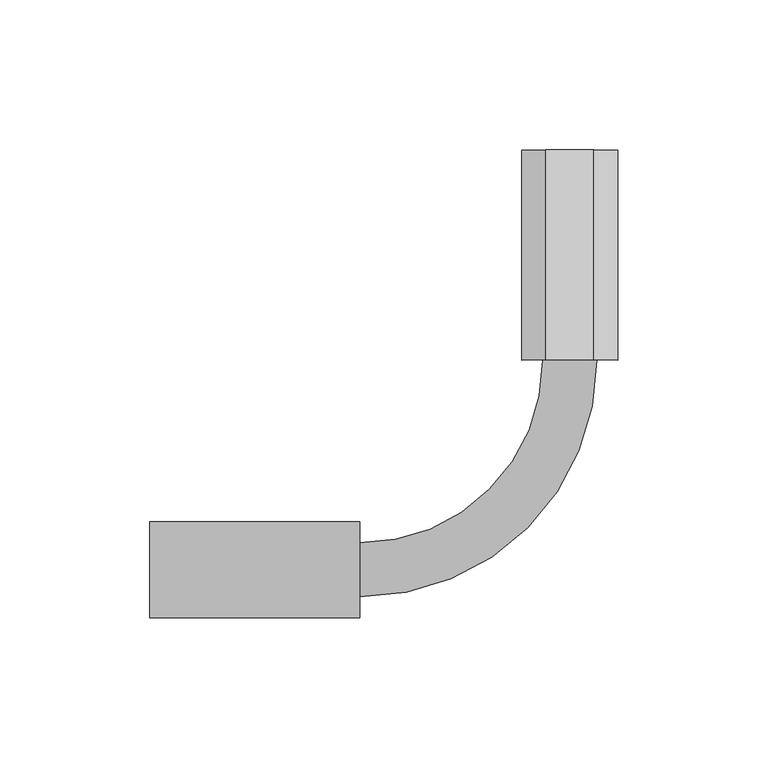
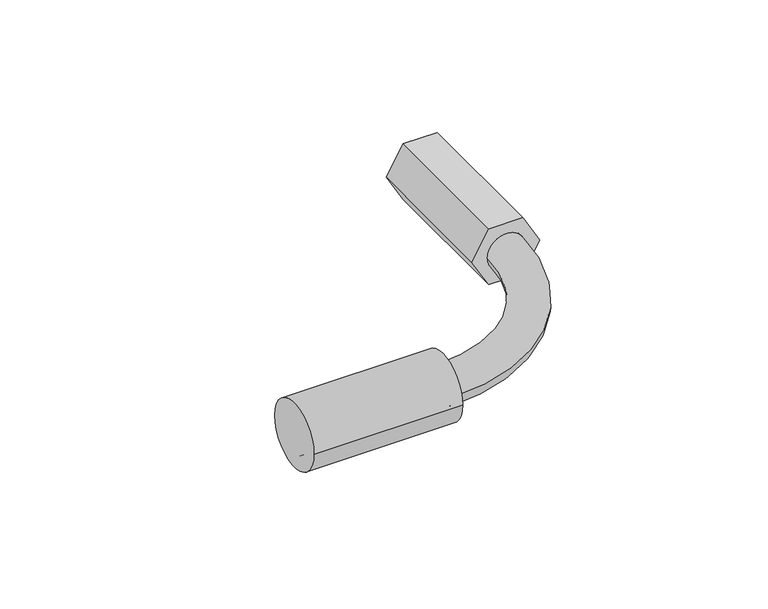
"""IFC4 building model written with IfcOpenShell, lengths in millimetres: cable carrier fitting geometry, Муфта_гибкая_труба-труба_IP44 : Муфта гибкая труба-труба D16мм."""

from ifc_helpers import new_model, si_unit, point, frame, origin, origin_2d, place, context, project, spatial, polyline, circle_curve, ellipse_curve, trimmed, segment, composite_curve, outline, extrude, source, transform, mapped, element, save
from ifc_brep_helpers import plane_surface, cylinder_surface, revolved_surface, advanced_brep


def cable_carrier_fitting_d21bb2d3(model_context):
    return source(origin(), model_context, "Body", "SolidModel", [
        extrude(outline(composite_curve([segment(trimmed(circle_curve(origin_2d(), 16.0), [point((-16.0, 0.0))], [point((16.0, 0.0))], False, "CARTESIAN"), True, "CONTINUOUS"), segment(trimmed(circle_curve(origin_2d(), 16.0), [point((16.0, 0.0))], [point((-16.0, 0.0))], False, "CARTESIAN"), True, "CONTINUOUS")], self_intersect=False)), frame((-140.0, 0.0, 0.0), z_axis=(1.0, 0.0, 0.0), x_axis=(0.0, 1.0, 0.0)), (0.0, 0.0, 1.0), 70.0),
        extrude(outline(polyline([(-13.8564065, 8.0), (0.0, 16.0), (13.8564065, 8.0), (13.8564065, -8.0), (0.0, -16.0), (-13.8564065, -8.0), (-13.8564065, 8.0)])), frame((0.0, 70.0, 0.0), z_axis=(0.0, 1.0, 0.0), x_axis=(0.0, 0.0, 1.0)), (0.0, 0.0, 1.0), 70.0),
        advanced_brep(
        [(-140.0, -9.0, 0.0), (-140.0, 9.0, 0.0), (-70.0, -9.0, 0.0), (-70.0, 9.0, 0.0), (-9.0, 70.0, 0.0), (9.0, 70.0, 0.0), (9.0, 140.0, 0.0), (-9.0, 140.0, 0.0)],
        [
            (0, 1, circle_curve(frame((-140.0, 0.0, 0.0), z_axis=(-1.0, 0.0, 0.0), x_axis=(0.0, 1.0, 0.0)), 9.0)),
            (1, 0, circle_curve(frame((-140.0, 0.0, 0.0), z_axis=(-1.0, 0.0, 0.0), x_axis=(0.0, 1.0, 0.0)), 9.0)),
            (0, 2),
            (2, 3, circle_curve(frame((-70.0, 0.0, 0.0), z_axis=(-1.0, 0.0, 0.0), x_axis=(0.0, 1.0, 0.0)), 9.0)),
            (3, 1),
            (3, 2, circle_curve(frame((-70.0, 0.0, 0.0), z_axis=(-1.0, 0.0, 0.0), x_axis=(0.0, 1.0, 0.0)), 9.0)),
            (4, 3, circle_curve(frame((-70.0, 70.0, 0.0), z_axis=(0.0, 0.0, -1.0), x_axis=(0.0, -1.0, 0.0)), 61.0)),
            (2, 5, circle_curve(frame((-70.0, 70.0, 0.0), z_axis=(0.0, 0.0, 1.0), x_axis=(0.0, -1.0, 0.0)), 79.0)),
            (5, 4, circle_curve(frame((0.0, 70.0, 0.0), z_axis=(0.0, -1.0, 0.0), x_axis=(-1.0, 0.0, 0.0)), 9.0)),
            (4, 5, circle_curve(frame((0.0, 70.0, 0.0), z_axis=(0.0, -1.0, 0.0), x_axis=(-1.0, 0.0, 0.0)), 9.0)),
            (6, 7, circle_curve(frame((0.0, 140.0, 0.0), z_axis=(0.0, 1.0, 0.0), x_axis=(-1.0, 0.0, 0.0)), 9.0)),
            (7, 6, circle_curve(frame((0.0, 140.0, 0.0), z_axis=(0.0, 1.0, 0.0), x_axis=(-1.0, 0.0, 0.0)), 9.0)),
            (5, 6),
            (7, 4),
        ],
        [
            plane_surface(frame((-140.0, 0.0, 0.0), z_axis=(-1.0, 0.0, 0.0), x_axis=(0.0, 0.0, 1.0))),
            cylinder_surface(frame((-140.0, 0.0, 0.0), z_axis=(-1.0, 0.0, 0.0), x_axis=(0.0, 1.0, 0.0)), 9.0),
            revolved_surface(trimmed(ellipse_curve(frame((-70.0, 0.0, 0.0), z_axis=(-1.0, 0.0, 0.0), x_axis=(0.0, 1.0, 0.0)), 9.0, 9.0), [point((-70.0, -9.0, 0.0))], [point((-70.0, 9.0, 0.0))], True, "CARTESIAN"), (-70.0, 70.0, 0.0), (0.0, 0.0, 1.0)),
            revolved_surface(trimmed(ellipse_curve(frame((-70.0, 0.0, 0.0), z_axis=(-1.0, 0.0, 0.0), x_axis=(0.0, 1.0, 0.0)), 9.0, 9.0), [point((-70.0, 9.0, 0.0))], [point((-70.0, -9.0, 0.0))], True, "CARTESIAN"), (-70.0, 70.0, 0.0), (0.0, 0.0, 1.0)),
            plane_surface(frame((0.0, 140.0, 0.0), z_axis=(0.0, 1.0, 0.0), x_axis=(0.0, 0.0, 1.0))),
            cylinder_surface(frame((0.0, 70.0, 0.0), z_axis=(0.0, -1.0, 0.0), x_axis=(-1.0, 0.0, 0.0)), 9.0),
        ],
        [
            (0, [[1, 2]]),
            (1, [[-1, 3, 4, 5]]),
            (1, [[-2, -5, 6, -3]]),
            (2, [[7, -4, 8, 9]]),
            (3, [[-8, -6, -7, 10]]),
            (4, [[11, 12]]),
            (5, [[-9, 13, -12, 14]]),
            (5, [[-10, -14, -11, -13]]),
        ],
    ),
    ])


if __name__ == "__main__":
    model = new_model("IFC4")
    model_context = context("Model", 3, world=origin())
    ifc_project = project(units=[si_unit("LENGTHUNIT", "METRE", prefix="MILLI")], contexts=[model_context])
    site = spatial("IfcSite", under=ifc_project)
    building = spatial("IfcBuilding", under=site)
    placement = place(None, origin())
    cable_carrier_fitting_shape = cable_carrier_fitting_d21bb2d3(model_context)
    element("IfcCableCarrierFitting", 1, ObjectType="Муфта_гибкая_труба-труба_IP44 : Муфта гибкая труба-труба D16мм", at=placement, inside=building, context=model_context, shape_type="MappedRepresentation", body=[
        mapped(cable_carrier_fitting_shape, transform((0.0, 0.0, 0.0), x_axis=(1.0, 0.0, 0.0), y_axis=(0.0, 1.0, 0.0), z_axis=(0.0, 0.0, 1.0))),
    ])
    save(model, "model.ifc")
